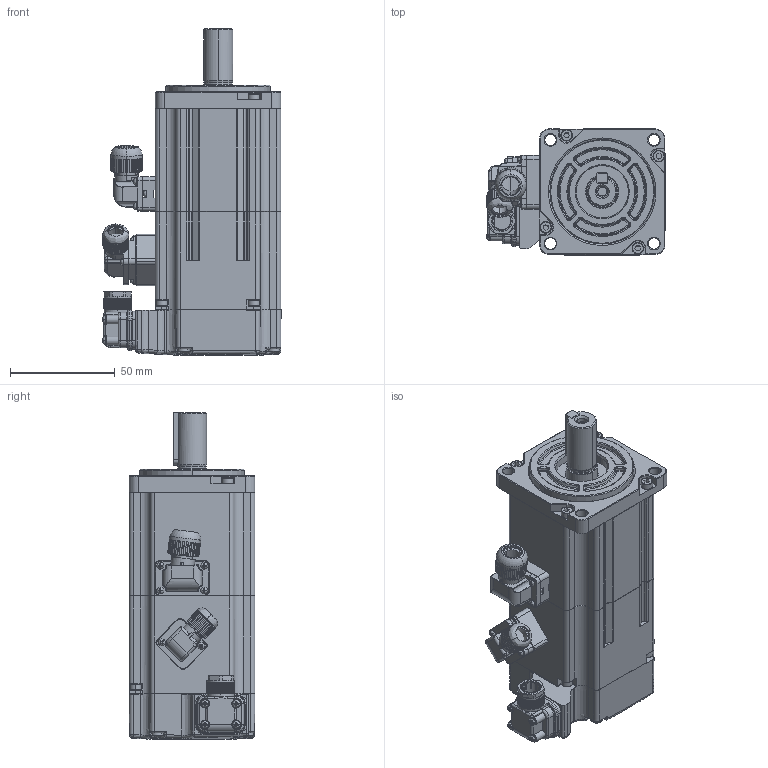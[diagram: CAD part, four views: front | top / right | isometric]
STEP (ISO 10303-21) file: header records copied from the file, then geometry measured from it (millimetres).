
FILE_DESCRIPTION (( 'STEP AP214' ), '1' );
FILE_NAME ('4611170000727.STEP', '2019-01-18T01:24:43', ( '11' ), ( '' ), 'SwSTEP 2.0', 'SolidWorks 2015', '' );
FILE_SCHEMA (( 'AUTOMOTIVE_DESIGN' ));
Length unit declared in the file: millimetre
Products named in the file (1): 4611170000727
Bounding box: 85.15 x 60.1 x 156 mm (x, y, z)
Surface area: 53659.9 mm2 (no closed solid volume)
Topology: 0 solids, 61 shells, 1577 faces, 6037 edges, 4277 vertices
Faces by surface type: plane 619, cylinder 417, cone 275, bspline 192, torus 66, sphere 8
Entity records: 107242 total; most frequent: CARTESIAN_POINT 45396, ORIENTED_EDGE 9290, DIRECTION 7646, EDGE_CURVE 6018, VERTEX_POINT 4277, AXIS2_PLACEMENT_3D 2754, B_SPLINE_CURVE_WITH_KNOTS 2364, VECTOR 2138
